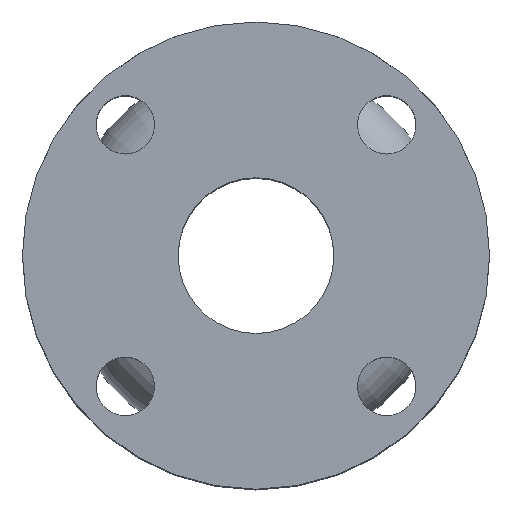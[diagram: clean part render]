
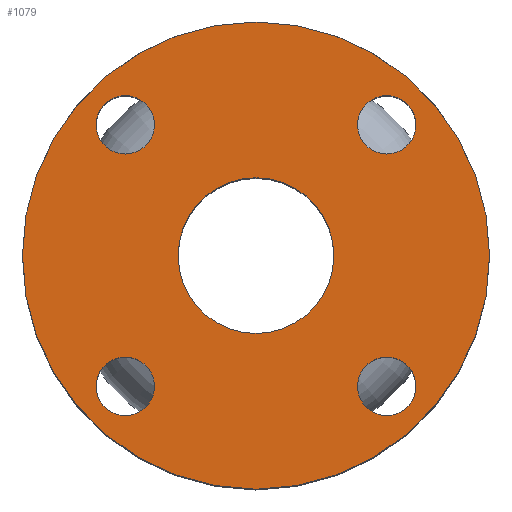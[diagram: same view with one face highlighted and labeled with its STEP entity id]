
A CAD part, top view. The second image highlights one B-rep face of the part: STEP entity #1079.
In plain terms, the highlighted planar face has unit normal (0, 0, 1).
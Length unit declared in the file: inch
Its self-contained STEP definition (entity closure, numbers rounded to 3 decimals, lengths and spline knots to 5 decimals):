
#32=FACE_BOUND('',#193,.T.);
#33=FACE_BOUND('',#194,.T.);
#34=FACE_BOUND('',#195,.T.);
#35=FACE_BOUND('',#196,.T.);
#36=FACE_BOUND('',#197,.T.);
#64=PLANE('',#1217);
#116=FACE_OUTER_BOUND('',#192,.T.);
#192=EDGE_LOOP('',(#796));
#193=EDGE_LOOP('',(#797));
#194=EDGE_LOOP('',(#798));
#195=EDGE_LOOP('',(#799));
#196=EDGE_LOOP('',(#800));
#197=EDGE_LOOP('',(#801));
#404=CIRCLE('',#1202,0.375);
#406=CIRCLE('',#1205,0.375);
#408=CIRCLE('',#1208,0.375);
#410=CIRCLE('',#1211,0.375);
#411=CIRCLE('',#1213,1.);
#413=CIRCLE('',#1216,3.);
#480=VERTEX_POINT('',#1737);
#482=VERTEX_POINT('',#1743);
#484=VERTEX_POINT('',#1749);
#486=VERTEX_POINT('',#1755);
#487=VERTEX_POINT('',#1759);
#489=VERTEX_POINT('',#1765);
#589=EDGE_CURVE('',#480,#480,#404,.T.);
#592=EDGE_CURVE('',#482,#482,#406,.T.);
#595=EDGE_CURVE('',#484,#484,#408,.T.);
#598=EDGE_CURVE('',#486,#486,#410,.T.);
#599=EDGE_CURVE('',#487,#487,#411,.T.);
#603=EDGE_CURVE('',#489,#489,#413,.T.);
#796=ORIENTED_EDGE('',*,*,#603,.F.);
#797=ORIENTED_EDGE('',*,*,#589,.T.);
#798=ORIENTED_EDGE('',*,*,#592,.T.);
#799=ORIENTED_EDGE('',*,*,#595,.T.);
#800=ORIENTED_EDGE('',*,*,#598,.T.);
#801=ORIENTED_EDGE('',*,*,#599,.T.);
#1079=ADVANCED_FACE('',(#116,#32,#33,#34,#35,#36),#64,.F.);
#1202=AXIS2_PLACEMENT_3D('',#1739,#1422,#1423);
#1205=AXIS2_PLACEMENT_3D('',#1745,#1429,#1430);
#1208=AXIS2_PLACEMENT_3D('',#1751,#1436,#1437);
#1211=AXIS2_PLACEMENT_3D('',#1757,#1443,#1444);
#1213=AXIS2_PLACEMENT_3D('',#1760,#1447,#1448);
#1216=AXIS2_PLACEMENT_3D('',#1767,#1455,#1456);
#1217=AXIS2_PLACEMENT_3D('',#1768,#1457,#1458);
#1422=DIRECTION('center_axis',(0.,0.,
-1.));
#1423=DIRECTION('ref_axis',(-1.,0.,0.));
#1429=DIRECTION('center_axis',(0.,0.,
-1.));
#1430=DIRECTION('ref_axis',(0.,1.,0.));
#1436=DIRECTION('center_axis',(0.,0.,
-1.));
#1437=DIRECTION('ref_axis',(0.,-1.,0.));
#1443=DIRECTION('center_axis',(0.,0.,
-1.));
#1444=DIRECTION('ref_axis',(1.,0.,0.));
#1447=DIRECTION('center_axis',(0.,0.,
-1.));
#1448=DIRECTION('ref_axis',(-1.,0.,0.));
#1455=DIRECTION('center_axis',(0.,0.,
-1.));
#1456=DIRECTION('ref_axis',(1.,0.,0.));
#1457=DIRECTION('center_axis',(0.,0.,
-1.));
#1458=DIRECTION('ref_axis',(1.,0.,0.));
#1737=CARTESIAN_POINT('',(2.05438,1.67938,3.));
#1739=CARTESIAN_POINT('Origin',(1.67938,1.67938,3.));
#1743=CARTESIAN_POINT('',(1.67938,-2.05438,3.));
#1745=CARTESIAN_POINT('Origin',(1.67938,-1.67938,3.));
#1749=CARTESIAN_POINT('',(-1.67938,2.05438,3.));
#1751=CARTESIAN_POINT('Origin',(-1.67938,1.67938,3.));
#1755=CARTESIAN_POINT('',(-2.05438,-1.67938,3.));
#1757=CARTESIAN_POINT('Origin',(-1.67938,-1.67938,3.));
#1759=CARTESIAN_POINT('',(1.,0.,3.));
#1760=CARTESIAN_POINT('Origin',(0.,0.,
3.));
#1765=CARTESIAN_POINT('',(-3.,0.,3.));
#1767=CARTESIAN_POINT('Origin',(0.,0.,
3.));
#1768=CARTESIAN_POINT('Origin',(0.,0.,
3.));
